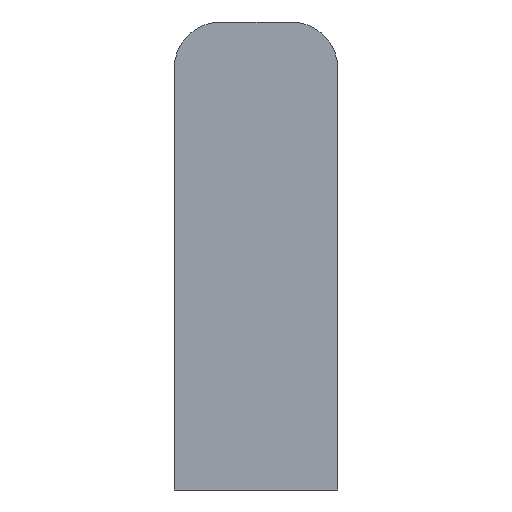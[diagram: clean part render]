
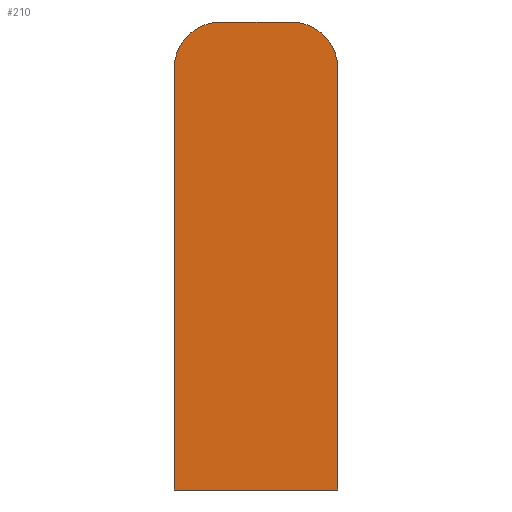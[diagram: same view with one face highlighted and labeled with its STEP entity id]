
A CAD part, front view. The second image highlights one B-rep face of the part: STEP entity #210.
In plain terms, the highlighted planar face has unit normal (0, -1, 0).
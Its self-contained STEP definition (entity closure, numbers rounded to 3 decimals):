
#7 = ORIENTED_EDGE ( 'NONE', *, *, #463, .T. ) ;
#50 = EDGE_LOOP ( 'NONE', ( #71, #72, #67, #66, #7, #53 ) ) ;
#53 = ORIENTED_EDGE ( 'NONE', *, *, #456, .T. ) ;
#66 = ORIENTED_EDGE ( 'NONE', *, *, #425, .T. ) ;
#67 = ORIENTED_EDGE ( 'NONE', *, *, #398, .T. ) ;
#71 = ORIENTED_EDGE ( 'NONE', *, *, #436, .T. ) ;
#72 = ORIENTED_EDGE ( 'NONE', *, *, #401, .T. ) ;
#85 = CIRCLE ( 'NONE', #465, 3. ) ;
#91 = CIRCLE ( 'NONE', #397, 3. ) ;
#106 = LINE ( 'NONE', #294, #113 ) ;
#113 = VECTOR ( 'NONE', #298, 1000. ) ;
#125 = LINE ( 'NONE', #336, #127 ) ;
#127 = VECTOR ( 'NONE', #347, 1000. ) ;
#135 = LINE ( 'NONE', #352, #169 ) ;
#141 = FACE_OUTER_BOUND ( 'NONE', #50, .T. ) ;
#165 = VECTOR ( 'NONE', #380, 1000. ) ;
#169 = VECTOR ( 'NONE', #368, 1000. ) ;
#173 = LINE ( 'NONE', #379, #165 ) ;
#181 = VERTEX_POINT ( 'NONE', #194 ) ;
#183 = VERTEX_POINT ( 'NONE', #193 ) ;
#187 = VERTEX_POINT ( 'NONE', #232 ) ;
#189 = VERTEX_POINT ( 'NONE', #230 ) ;
#192 = VERTEX_POINT ( 'NONE', #227 ) ;
#193 = CARTESIAN_POINT ( 'NONE',  ( 5.25, 0., 10.5 ) ) ;
#194 = CARTESIAN_POINT ( 'NONE',  ( -2.25, 0., 13.5 ) ) ;
#210 = ADVANCED_FACE ( 'NONE', ( #141 ), #265, .F. ) ;
#227 = CARTESIAN_POINT ( 'NONE',  ( 5.25, 0., -16.5 ) ) ;
#230 = CARTESIAN_POINT ( 'NONE',  ( -5.25, 0., -16.5 ) ) ;
#232 = CARTESIAN_POINT ( 'NONE',  ( -5.25, 0., 10.5 ) ) ;
#265 = PLANE ( 'NONE',  #443 ) ;
#266 = CARTESIAN_POINT ( 'NONE',  ( 0., 0., -1.5 ) ) ;
#277 = DIRECTION ( 'NONE',  ( -1., 0., 0. ) ) ;
#278 = DIRECTION ( 'NONE',  ( 0., 1., 0. ) ) ;
#285 = VERTEX_POINT ( 'NONE', #297 ) ;
#294 = CARTESIAN_POINT ( 'NONE',  ( 2.25, 0., 13.5 ) ) ;
#297 = CARTESIAN_POINT ( 'NONE',  ( 2.25, 0., 13.5 ) ) ;
#298 = DIRECTION ( 'NONE',  ( -1., 0., 0. ) ) ;
#302 = CARTESIAN_POINT ( 'NONE',  ( 2.25, 0., 10.5 ) ) ;
#303 = DIRECTION ( 'NONE',  ( 0., -1., 0. ) ) ;
#304 = DIRECTION ( 'NONE',  ( -1., 0., 0. ) ) ;
#322 = CARTESIAN_POINT ( 'NONE',  ( -2.25, 0., 10.5 ) ) ;
#329 = DIRECTION ( 'NONE',  ( 0., -1., 0. ) ) ;
#330 = DIRECTION ( 'NONE',  ( -1., 0., 0. ) ) ;
#336 = CARTESIAN_POINT ( 'NONE',  ( 5.25, 0., -16.5 ) ) ;
#347 = DIRECTION ( 'NONE',  ( 0., 0., 1. ) ) ;
#352 = CARTESIAN_POINT ( 'NONE',  ( 5.25, 0., -16.5 ) ) ;
#368 = DIRECTION ( 'NONE',  ( 1., 0., 0. ) ) ;
#379 = CARTESIAN_POINT ( 'NONE',  ( -5.25, 0., -16.5 ) ) ;
#380 = DIRECTION ( 'NONE',  ( 0., 0., -1. ) ) ;
#397 = AXIS2_PLACEMENT_3D ( 'NONE', #322, #329, #330 ) ;
#398 = EDGE_CURVE ( 'NONE', #285, #181, #106, .T. ) ;
#401 = EDGE_CURVE ( 'NONE', #183, #285, #85, .T. ) ;
#425 = EDGE_CURVE ( 'NONE', #181, #187, #91, .T. ) ;
#436 = EDGE_CURVE ( 'NONE', #192, #183, #125, .T. ) ;
#443 = AXIS2_PLACEMENT_3D ( 'NONE', #266, #278, #277 ) ;
#456 = EDGE_CURVE ( 'NONE', #189, #192, #135, .T. ) ;
#463 = EDGE_CURVE ( 'NONE', #187, #189, #173, .T. ) ;
#465 = AXIS2_PLACEMENT_3D ( 'NONE', #302, #303, #304 ) ;
